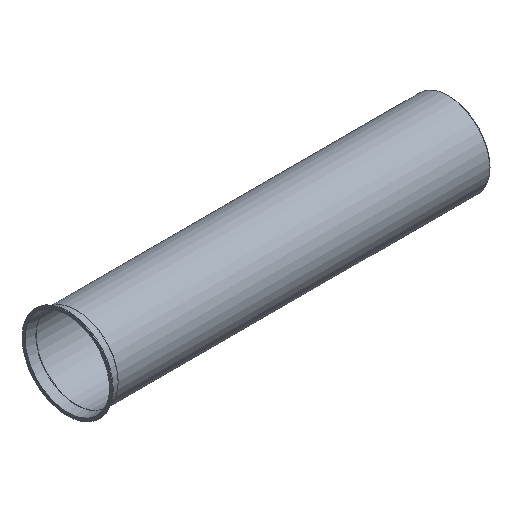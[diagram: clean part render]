
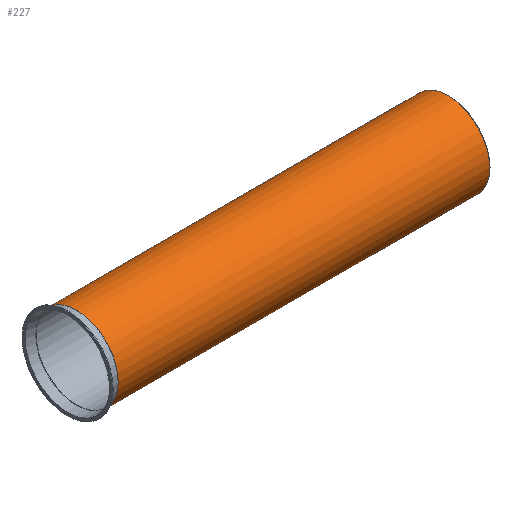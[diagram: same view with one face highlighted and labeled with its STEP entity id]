
A CAD part, isometric view. The second image highlights one B-rep face of the part: STEP entity #227.
In plain terms, the highlighted cylindrical face has radius 107.5 mm (diameter 215 mm), a full revolution.
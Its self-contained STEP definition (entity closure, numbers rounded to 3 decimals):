
#132=CARTESIAN_POINT('',(-2.081,46.834,0.0));
#133=VERTEX_POINT('',#132);
#134=CARTESIAN_POINT('',(-2.081,154.334,0.0));
#135=DIRECTION('',(-1.0,0.0,0.0));
#136=DIRECTION('',(0.0,-1.0,0.0));
#137=AXIS2_PLACEMENT_3D('',#134,#135,#136);
#138=CIRCLE('',#137,107.5);
#139=EDGE_CURVE('',#133,#133,#138,.T.);
#201=CARTESIAN_POINT('',(963.919,46.834,0.0));
#202=VERTEX_POINT('',#201);
#203=CARTESIAN_POINT('',(963.919,154.334,0.0));
#204=DIRECTION('',(-1.0,0.0,0.0));
#205=DIRECTION('',(0.0,-1.0,0.0));
#206=AXIS2_PLACEMENT_3D('',#203,#204,#205);
#207=CIRCLE('',#206,107.5);
#208=EDGE_CURVE('',#202,#202,#207,.T.);
#216=CARTESIAN_POINT('',(480.919,154.334,0.0));
#217=DIRECTION('',(-1.0,0.,0.0));
#218=DIRECTION('',(0.0,-1.0,0.0));
#219=AXIS2_PLACEMENT_3D('',#216,#217,#218);
#220=CYLINDRICAL_SURFACE('',#219,107.5);
#221=ORIENTED_EDGE('',*,*,#139,.F.);
#222=EDGE_LOOP('',(#221));
#223=FACE_OUTER_BOUND('',#222,.T.);
#224=ORIENTED_EDGE('',*,*,#208,.T.);
#225=EDGE_LOOP('',(#224));
#226=FACE_BOUND('',#225,.T.);
#227=ADVANCED_FACE('',(#223,#226),#220,.T.);
